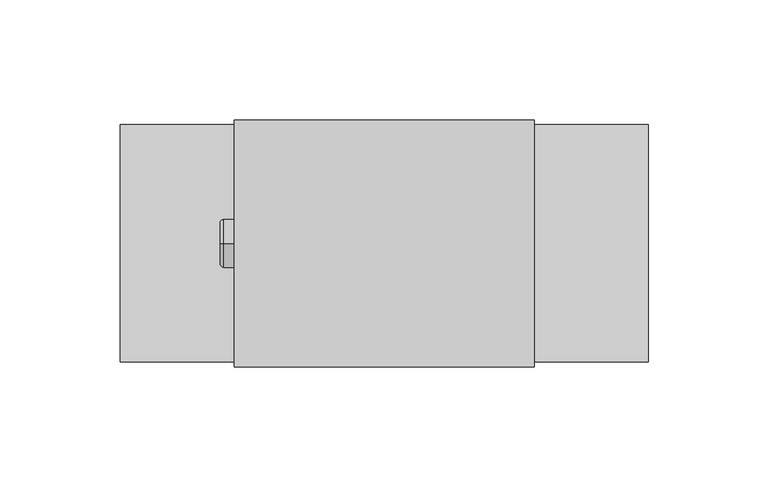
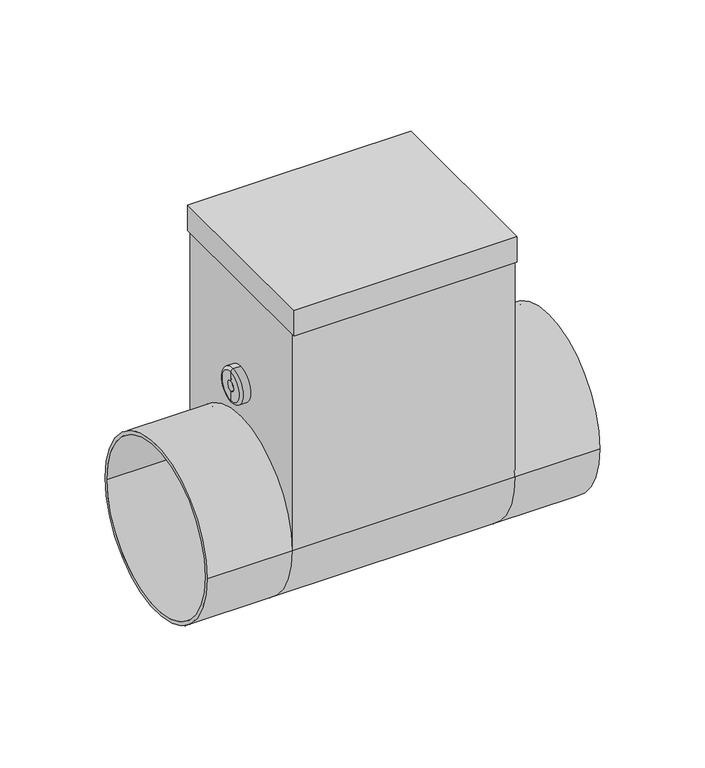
"""IFC4 building model written with IfcOpenShell, lengths in millimetres: proxy geometry, СВ_ВоздухонагревательЭлектрический_КанальныйКруглый_DN100-315_SKH-E : SKH-E-100/0,5."""

from ifc_helpers import new_model, si_unit, point, frame, origin, place, context, project, spatial, polyline, circle_curve, ellipse_curve, trimmed, outline, extrude, source, transform, mapped, element, save
from ifc_brep_helpers import plane_surface, cylinder_surface, revolved_surface, advanced_brep


def mechanical_equipment_b47814ae(model_context):
    return source(origin(), model_context, "Body", "SolidModel", [
        extrude(outline(polyline([(62.5, -51.5), (-62.5, -51.5), (-62.5, 51.5), (62.5, 51.5), (62.5, -51.5)])), frame((0.0, 0.0, 128.5), z_axis=(0.0, 0.0, 1.0), x_axis=(1.0, 0.0, 0.0)), (0.0, 0.0, 1.0), 15.0),
        advanced_brep(
        [(-110.0, -49.5, 0.0), (-110.0, 49.5, 0.0), (-110.0, -47.5, 0.0), (-110.0, 47.5, 0.0), (-62.5, 47.5, 0.0), (-62.5, -47.5, 0.0), (-62.5, 49.5, 0.0), (-62.5, -49.5, 0.0), (62.5, -47.5, 0.0), (62.5, 47.5, 0.0), (62.5, -49.5, 128.5), (62.5, -49.5, 0.0), (62.5, 49.5, 0.0), (62.5, 49.5, 128.5), (-62.5, -49.5, 128.5), (-62.5, 49.5, 128.5), (110.0, -49.5, 0.0), (110.0, 49.5, 0.0), (110.0, -47.5, 0.0), (110.0, 47.5, 0.0)],
        [
            (0, 1, circle_curve(frame((-110.0, 0.0, 0.0), z_axis=(-1.0, 0.0, 0.0), x_axis=(0.0, 1.0, 0.0)), 49.5)),
            (1, 0, circle_curve(frame((-110.0, 0.0, 0.0), z_axis=(-1.0, 0.0, 0.0), x_axis=(0.0, 1.0, 0.0)), 49.5)),
            (2, 3, circle_curve(frame((-110.0, 0.0, 0.0), z_axis=(1.0, 0.0, 0.0), x_axis=(0.0, 1.0, 0.0)), 47.5)),
            (3, 2, circle_curve(frame((-110.0, 0.0, 0.0), z_axis=(1.0, 0.0, 0.0), x_axis=(0.0, 1.0, 0.0)), 47.5)),
            (3, 4),
            (4, 5, circle_curve(frame((-62.5, 0.0, 0.0), z_axis=(1.0, 0.0, 0.0), x_axis=(0.0, 1.0, 0.0)), 47.5)),
            (5, 2),
            (5, 4, circle_curve(frame((-62.5, 0.0, 0.0), z_axis=(1.0, 0.0, 0.0), x_axis=(0.0, 1.0, 0.0)), 47.5)),
            (1, 6),
            (6, 7, circle_curve(frame((-62.5, 0.0, 0.0), z_axis=(-1.0, 0.0, 0.0), x_axis=(0.0, 1.0, 0.0)), 49.5)),
            (7, 0),
            (7, 6, circle_curve(frame((-62.5, 0.0, 0.0), z_axis=(-1.0, 0.0, 0.0), x_axis=(0.0, 1.0, 0.0)), 49.5)),
            (8, 9, circle_curve(frame((62.5, 0.0, 0.0), z_axis=(1.0, 0.0, 0.0), x_axis=(0.0, 1.0, 0.0)), 47.5)),
            (9, 8, circle_curve(frame((62.5, 0.0, 0.0), z_axis=(1.0, 0.0, 0.0), x_axis=(0.0, 1.0, 0.0)), 47.5)),
            (10, 11),
            (11, 12, circle_curve(frame((62.5, 0.0, 0.0), z_axis=(-1.0, 0.0, 0.0), x_axis=(0.0, 1.0, 0.0)), 49.5)),
            (12, 13),
            (13, 10),
            (7, 14),
            (14, 15),
            (15, 6),
            (6, 12),
            (12, 11, circle_curve(frame((62.5, 0.0, 0.0), z_axis=(-1.0, 0.0, 0.0), x_axis=(0.0, 1.0, 0.0)), 49.5)),
            (11, 7),
            (16, 17, circle_curve(frame((110.0, 0.0, 0.0), z_axis=(1.0, 0.0, 0.0), x_axis=(0.0, 1.0, 0.0)), 49.5)),
            (17, 16, circle_curve(frame((110.0, 0.0, 0.0), z_axis=(1.0, 0.0, 0.0), x_axis=(0.0, 1.0, 0.0)), 49.5)),
            (18, 19, circle_curve(frame((110.0, 0.0, 0.0), z_axis=(-1.0, 0.0, 0.0), x_axis=(0.0, 1.0, 0.0)), 47.5)),
            (19, 18, circle_curve(frame((110.0, 0.0, 0.0), z_axis=(-1.0, 0.0, 0.0), x_axis=(0.0, 1.0, 0.0)), 47.5)),
            (18, 8),
            (9, 19),
            (16, 11),
            (12, 17),
            (10, 14),
            (15, 13),
        ],
        [
            plane_surface(frame((-110.0, 47.5, 0.0), z_axis=(-1.0, 0.0, 0.0), x_axis=(0.0, 0.0, 1.0))),
            revolved_surface(polyline([(-110.0, 47.5, 0.0), (-62.5, 47.5, 0.0)]), (-110.0, 0.0, 0.0), (-1.0, 0.0, 0.0)),
            cylinder_surface(frame((0.0, 0.0, 0.0), z_axis=(1.0, 0.0, 0.0), x_axis=(0.0, 1.0, 0.0)), 49.5),
            plane_surface(frame((62.5, 49.5, 0.0), z_axis=(1.0, 0.0, 0.0), x_axis=(0.0, -1.0, 0.0))),
            plane_surface(frame((-62.5, 49.5, 0.0), z_axis=(-1.0, 0.0, 0.0), x_axis=(0.0, 1.0, 0.0))),
            cylinder_surface(frame((-62.5, 0.0, 0.0), z_axis=(1.0, 0.0, 0.0), x_axis=(0.0, 1.0, 0.0)), 49.5),
            plane_surface(frame((110.0, 47.5, 0.0), z_axis=(1.0, 0.0, 0.0), x_axis=(0.0, 0.0, -1.0))),
            revolved_surface(polyline([(62.5, 47.5, 0.0), (110.0, 47.5, 0.0)]), (62.5, 0.0, 0.0), (-1.0, 0.0, 0.0)),
            plane_surface(frame((-62.5, -49.5, 128.5), z_axis=(0.0, -1.0, 0.0), x_axis=(-1.0, 0.0, 0.0))),
            plane_surface(frame((-62.5, 49.5, 128.5), z_axis=(0.0, 1.0, 0.0), x_axis=(1.0, 0.0, 0.0))),
            plane_surface(frame((62.5, -49.5, 128.5), z_axis=(0.0, 0.0, 1.0), x_axis=(0.0, 1.0, 0.0))),
        ],
        [
            (0, [[1, 2], [3, 4]]),
            (1, [[-4, 5, 6, 7]]),
            (1, [[-3, -7, 8, -5]]),
            (2, [[-2, 9, 10, 11]]),
            (2, [[-1, -11, 12, -9]]),
            (3, [[13, 14]]),
            (3, [[15, 16, 17, 18]]),
            (4, [[-8, -6]]),
            (4, [[19, 20, 21, -12]]),
            (5, [[-10, 22, 23, 24]]),
            (6, [[25, 26], [27, 28]]),
            (7, [[-27, 29, -14, 30]]),
            (7, [[-28, -30, -13, -29]]),
            (2, [[-25, 31, -23, 32]]),
            (2, [[-26, -32, -16, -31]]),
            (8, [[33, -19, -24, -15]]),
            (9, [[-17, -22, -21, 34]]),
            (10, [[-33, -18, -34, -20]]),
        ],
    ),
        advanced_brep(
        [(-66.7840134, 0.0, 59.5), (-66.7840134, 0.0, 79.5), (-62.5, 0.0, 79.5), (-62.5, 0.0, 59.5), (-68.2459771, 0.0, 60.9619637), (-68.2459771, 0.0, 78.0380363), (-68.2459771, 0.0, 66.3948071), (-68.2459771, 0.0, 72.6051929), (-65.9138357, 0.0, 66.3948071), (-65.9138357, 0.0, 72.6051929), (-65.9138357, 0.0, 69.5), (-62.5, 0.0, 69.5)],
        [
            (0, 1, circle_curve(frame((-66.7840134, 0.0, 69.5), z_axis=(1.0, 0.0, 0.0), x_axis=(0.0, 0.0, 1.0)), 10.0)),
            (1, 2),
            (2, 3, circle_curve(frame((-62.5, 0.0, 69.5), z_axis=(-1.0, 0.0, 0.0), x_axis=(0.0, 0.0, 1.0)), 10.0)),
            (3, 0),
            (1, 0, circle_curve(frame((-66.7840134, 0.0, 69.5), z_axis=(1.0, 0.0, 0.0), x_axis=(0.0, 0.0, 1.0)), 10.0)),
            (3, 2, circle_curve(frame((-62.5, 0.0, 69.5), z_axis=(-1.0, 0.0, 0.0), x_axis=(0.0, 0.0, 1.0)), 10.0)),
            (4, 5, circle_curve(frame((-68.2459771, 0.0, 69.5), z_axis=(1.0, 0.0, 0.0), x_axis=(0.0, 0.0, 1.0)), 8.5380363)),
            (5, 1, circle_curve(frame((-66.7840134, 0.0, 78.0380363), z_axis=(0.0, 1.0, 0.0), x_axis=(1.0, 0.0, 0.0)), 1.4619637)),
            (0, 4, circle_curve(frame((-66.7840134, 0.0, 60.9619637), z_axis=(0.0, 1.0, 0.0), x_axis=(1.0, 0.0, 0.0)), 1.4619637)),
            (5, 4, circle_curve(frame((-68.2459771, 0.0, 69.5), z_axis=(1.0, 0.0, 0.0), x_axis=(0.0, 0.0, 1.0)), 8.5380363)),
            (6, 7, circle_curve(frame((-68.2459771, 0.0, 69.5), z_axis=(1.0, 0.0, 0.0), x_axis=(0.0, 0.0, 1.0)), 3.1051929)),
            (7, 5),
            (4, 6),
            (7, 6, circle_curve(frame((-68.2459771, 0.0, 69.5), z_axis=(1.0, 0.0, 0.0), x_axis=(0.0, 0.0, 1.0)), 3.1051929)),
            (8, 9, circle_curve(frame((-65.9138357, 0.0, 69.5), z_axis=(1.0, 0.0, 0.0), x_axis=(0.0, 0.0, 1.0)), 3.1051929)),
            (9, 7),
            (6, 8),
            (9, 8, circle_curve(frame((-65.9138357, 0.0, 69.5), z_axis=(1.0, 0.0, 0.0), x_axis=(0.0, 0.0, 1.0)), 3.1051929)),
            (10, 9),
            (8, 10),
            (2, 11),
            (11, 3),
        ],
        [
            cylinder_surface(frame((-98.1635229, 0.0, 69.5), z_axis=(-1.0, 0.0, 0.0), x_axis=(0.0, 0.0, 1.0)), 10.0),
            revolved_surface(trimmed(ellipse_curve(frame((-66.7840134, 0.0, 78.0380363), z_axis=(0.0, -1.0, 0.0), x_axis=(1.0, 0.0, 0.0)), 1.4619637, 1.4619637), [point((-66.7840134, 0.0, 79.5))], [point((-68.2459771, 0.0, 78.0380363))], True, "CARTESIAN"), (-98.1635229, 0.0, 69.5), (-1.0, 0.0, 0.0)),
            plane_surface(frame((-68.2459771, 0.0, 69.5), z_axis=(-1.0, 0.0, 0.0), x_axis=(0.0, 0.0, 1.0))),
            revolved_surface(polyline([(-68.2459771, 0.0, 72.6051929), (-65.9138357, 0.0, 72.6051929)]), (-98.1635229, 0.0, 69.5), (-1.0, 0.0, 0.0)),
            plane_surface(frame((-65.9138357, 0.0, 69.5), z_axis=(-1.0, 0.0, 0.0), x_axis=(0.0, 0.0, 1.0))),
            plane_surface(frame((-62.5, 0.0, 69.5), z_axis=(1.0, 0.0, 0.0), x_axis=(0.0, 0.0, 1.0))),
        ],
        [
            (0, [[1, 2, 3, 4]]),
            (0, [[5, -4, 6, -2]]),
            (1, [[7, 8, -1, 9]]),
            (1, [[10, -9, -5, -8]]),
            (2, [[11, 12, -7, 13]]),
            (2, [[14, -13, -10, -12]]),
            (3, [[15, 16, -11, 17]]),
            (3, [[18, -17, -14, -16]]),
            (4, [[19, -15, 20]]),
            (4, [[-20, -18, -19]]),
            (5, [[-3, 21, 22]]),
            (5, [[-6, -22, -21]]),
        ],
    ),
    ])


if __name__ == "__main__":
    model = new_model("IFC4")
    model_context = context("Model", 3, world=origin())
    ifc_project = project(units=[si_unit("LENGTHUNIT", "METRE", prefix="MILLI")], contexts=[model_context])
    site = spatial("IfcSite", under=ifc_project)
    building = spatial("IfcBuilding", under=site)
    placement = place(None, origin())
    mechanical_equipment_shape = mechanical_equipment_b47814ae(model_context)
    element("IfcBuildingElementProxy", 1, Name="СВ_ВоздухонагревательЭлектрический_КанальныйКруглый_DN100-315_SKH-E : SKH-E-100/0,5", ObjectType="СВ_ВоздухонагревательЭлектрический_КанальныйКруглый_DN100-315_SKH-E : SKH-E-100/0,5", at=placement, inside=building, context=model_context, shape_type="MappedRepresentation", body=[
        mapped(mechanical_equipment_shape, transform((0.0, 0.0, 0.0), x_axis=(1.0, 0.0, 0.0), y_axis=(0.0, 1.0, 0.0), z_axis=(0.0, 0.0, 1.0))),
    ])
    save(model, "model.ifc")
